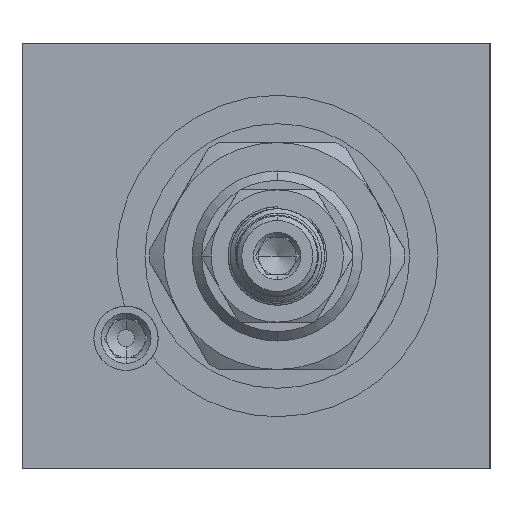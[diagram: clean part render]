
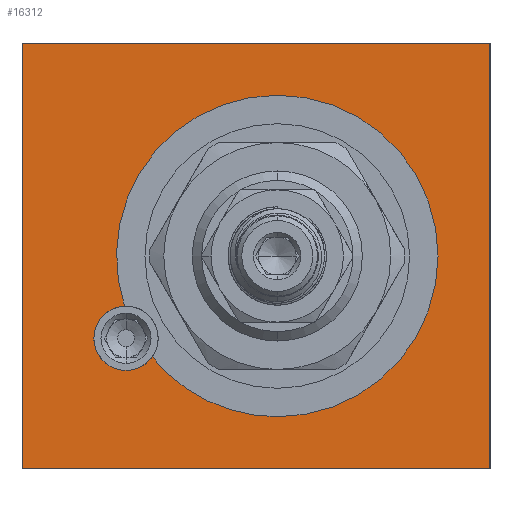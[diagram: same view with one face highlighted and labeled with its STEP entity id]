
A CAD part, left-side view. The second image highlights one B-rep face of the part: STEP entity #16312.
In plain terms, the highlighted planar face has unit normal (-1, 0, 0).
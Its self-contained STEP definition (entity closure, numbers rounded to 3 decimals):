
#252 = CARTESIAN_POINT ( 'NONE',  ( 0., 24.75, -23.207 ) ) ;
#418 = DIRECTION ( 'NONE',  ( -1., 0., 0. ) ) ;
#1573 = VERTEX_POINT ( 'NONE', #18785 ) ;
#2419 = DIRECTION ( 'NONE',  ( 0., 0., 1. ) ) ;
#2547 = VERTEX_POINT ( 'NONE', #4988 ) ;
#2582 = EDGE_CURVE ( 'NONE', #3687, #1573, #24118, .T. ) ;
#3327 = FACE_OUTER_BOUND ( 'NONE', #13308, .T. ) ;
#3687 = VERTEX_POINT ( 'NONE', #10907 ) ;
#4161 = CARTESIAN_POINT ( 'NONE',  ( 0., -2.25, 0. ) ) ;
#4669 = PLANE ( 'NONE',  #32676 ) ;
#4988 = CARTESIAN_POINT ( 'NONE',  ( 0., -24.75, -22.5 ) ) ;
#5201 = VECTOR ( 'NONE', #5700, 1000. ) ;
#5487 = VERTEX_POINT ( 'NONE', #24107 ) ;
#5700 = DIRECTION ( 'NONE',  ( 0., 1., 0. ) ) ;
#6132 = VECTOR ( 'NONE', #8633, 1000. ) ;
#6644 = DIRECTION ( 'NONE',  ( -1., 0., 0. ) ) ;
#6731 = DIRECTION ( 'NONE',  ( 0., 0., 1. ) ) ;
#7694 = CARTESIAN_POINT ( 'NONE',  ( 0., -2.25, 17. ) ) ;
#8398 = DIRECTION ( 'NONE',  ( 0., 0., 1. ) ) ;
#8633 = DIRECTION ( 'NONE',  ( 0., 1., 0. ) ) ;
#9320 = FACE_BOUND ( 'NONE', #12973, .T. ) ;
#9675 = CARTESIAN_POINT ( 'NONE',  ( 0., -24.75, 22.5 ) ) ;
#9882 = CARTESIAN_POINT ( 'NONE',  ( 0., 13.902, -5.303 ) ) ;
#10259 = AXIS2_PLACEMENT_3D ( 'NONE', #4161, #21962, #6731 ) ;
#10466 = AXIS2_PLACEMENT_3D ( 'NONE', #32709, #17716, #2419 ) ;
#10771 = EDGE_CURVE ( 'NONE', #2547, #12827, #24758, .T. ) ;
#10907 = CARTESIAN_POINT ( 'NONE',  ( 0., 13.75, -12.1 ) ) ;
#11361 = AXIS2_PLACEMENT_3D ( 'NONE', #21869, #6644, #24362 ) ;
#11915 = LINE ( 'NONE', #30786, #5201 ) ;
#12326 = VERTEX_POINT ( 'NONE', #18579 ) ;
#12811 = LINE ( 'NONE', #23856, #6132 ) ;
#12827 = VERTEX_POINT ( 'NONE', #9675 ) ;
#12972 = VERTEX_POINT ( 'NONE', #9882 ) ;
#12973 = EDGE_LOOP ( 'NONE', ( #27803, #27863, #27993, #28089, #28218 ) ) ;
#13076 = VERTEX_POINT ( 'NONE', #7694 ) ;
#13270 = EDGE_CURVE ( 'NONE', #12326, #13076, #32799, .T. ) ;
#13308 = EDGE_LOOP ( 'NONE', ( #27440, #27495, #27521, #27745 ) ) ;
#14804 = CARTESIAN_POINT ( 'NONE',  ( 0., 24.75, -22.5 ) ) ;
#15739 = CARTESIAN_POINT ( 'NONE',  ( 0., -2.25, 0. ) ) ;
#16312 = ADVANCED_FACE ( 'NONE', ( #3327, #9320 ), #4669, .T. ) ;
#17393 = DIRECTION ( 'NONE',  ( 0., 0., 1. ) ) ;
#17716 = DIRECTION ( 'NONE',  ( -1., 0., 0. ) ) ;
#18326 = DIRECTION ( 'NONE',  ( 0., 0., 1. ) ) ;
#18571 = EDGE_CURVE ( 'NONE', #2547, #5487, #12811, .T. ) ;
#18579 = CARTESIAN_POINT ( 'NONE',  ( 0., -2.25, -17. ) ) ;
#18785 = CARTESIAN_POINT ( 'NONE',  ( 0., 10.981, -10.674 ) ) ;
#18982 = CIRCLE ( 'NONE', #11361, 17. ) ;
#19032 = LINE ( 'NONE', #252, #19824 ) ;
#19036 = EDGE_CURVE ( 'NONE', #12827, #26081, #11915, .T. ) ;
#19542 = DIRECTION ( 'NONE',  ( 0., 0., 1. ) ) ;
#19824 = VECTOR ( 'NONE', #8398, 1000. ) ;
#20156 = EDGE_CURVE ( 'NONE', #13076, #12972, #31969, .T. ) ;
#20571 = EDGE_CURVE ( 'NONE', #5487, #26081, #19032, .T. ) ;
#20648 = AXIS2_PLACEMENT_3D ( 'NONE', #29181, #29003, #28955 ) ;
#21823 = CARTESIAN_POINT ( 'NONE',  ( 0., -24.75, -23.207 ) ) ;
#21869 = CARTESIAN_POINT ( 'NONE',  ( 0., -2.25, 0. ) ) ;
#21962 = DIRECTION ( 'NONE',  ( -1., 0., 0. ) ) ;
#23365 = AXIS2_PLACEMENT_3D ( 'NONE', #15739, #418, #18326 ) ;
#23856 = CARTESIAN_POINT ( 'NONE',  ( 0., -25.457, -22.5 ) ) ;
#23952 = VECTOR ( 'NONE', #19542, 1000. ) ;
#24107 = CARTESIAN_POINT ( 'NONE',  ( 0., 24.75, -22.5 ) ) ;
#24118 = CIRCLE ( 'NONE', #20648, 3.4 ) ;
#24362 = DIRECTION ( 'NONE',  ( 0., 0., 1. ) ) ;
#24758 = LINE ( 'NONE', #21823, #23952 ) ;
#26081 = VERTEX_POINT ( 'NONE', #32398 ) ;
#26244 = EDGE_CURVE ( 'NONE', #12972, #3687, #32397, .T. ) ;
#27440 = ORIENTED_EDGE ( 'NONE', *, *, #20571, .F. ) ;
#27495 = ORIENTED_EDGE ( 'NONE', *, *, #18571, .F. ) ;
#27521 = ORIENTED_EDGE ( 'NONE', *, *, #10771, .T. ) ;
#27745 = ORIENTED_EDGE ( 'NONE', *, *, #19036, .T. ) ;
#27803 = ORIENTED_EDGE ( 'NONE', *, *, #26244, .F. ) ;
#27863 = ORIENTED_EDGE ( 'NONE', *, *, #20156, .F. ) ;
#27993 = ORIENTED_EDGE ( 'NONE', *, *, #13270, .F. ) ;
#28089 = ORIENTED_EDGE ( 'NONE', *, *, #30827, .F. ) ;
#28218 = ORIENTED_EDGE ( 'NONE', *, *, #2582, .F. ) ;
#28955 = DIRECTION ( 'NONE',  ( 0., 0., 1. ) ) ;
#29003 = DIRECTION ( 'NONE',  ( -1., 0., 0. ) ) ;
#29181 = CARTESIAN_POINT ( 'NONE',  ( 0., 13.75, -8.7 ) ) ;
#30786 = CARTESIAN_POINT ( 'NONE',  ( 0., -25.457, 22.5 ) ) ;
#30827 = EDGE_CURVE ( 'NONE', #1573, #12326, #18982, .T. ) ;
#31969 = CIRCLE ( 'NONE', #10259, 17. ) ;
#32397 = CIRCLE ( 'NONE', #10466, 3.4 ) ;
#32398 = CARTESIAN_POINT ( 'NONE',  ( 0., 24.75, 22.5 ) ) ;
#32414 = DIRECTION ( 'NONE',  ( -1., 0., 0. ) ) ;
#32676 = AXIS2_PLACEMENT_3D ( 'NONE', #14804, #32414, #17393 ) ;
#32709 = CARTESIAN_POINT ( 'NONE',  ( 0., 13.75, -8.7 ) ) ;
#32799 = CIRCLE ( 'NONE', #23365, 17. ) ;
